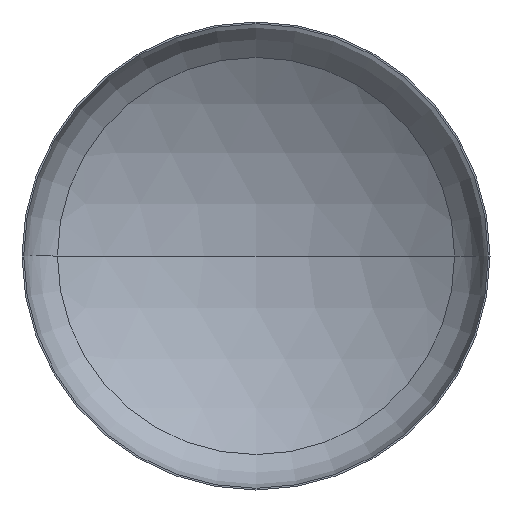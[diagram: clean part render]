
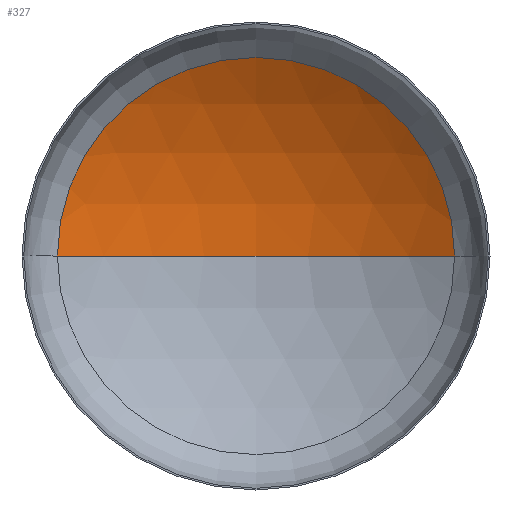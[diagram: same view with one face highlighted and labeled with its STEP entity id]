
A CAD part, front view. The second image highlights one B-rep face of the part: STEP entity #327.
In plain terms, the highlighted spherical face has radius 2400 mm.
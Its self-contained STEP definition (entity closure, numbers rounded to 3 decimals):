
#4 = ORIENTED_EDGE ( 'NONE', *, *, #21, .F. ) ;
#5 = VERTEX_POINT ( 'NONE', #278 ) ;
#12 = EDGE_CURVE ( 'NONE', #56, #5, #271, .T. ) ;
#14 = EDGE_LOOP ( 'NONE', ( #4, #106, #52 ) ) ;
#18 = EDGE_CURVE ( 'NONE', #216, #56, #155, .T. ) ;
#21 = EDGE_CURVE ( 'NONE', #216, #5, #326, .T. ) ;
#52 = ORIENTED_EDGE ( 'NONE', *, *, #12, .T. ) ;
#56 = VERTEX_POINT ( 'NONE', #285 ) ;
#81 = CARTESIAN_POINT ( 'NONE',  ( 0., 795.385, 0. ) ) ;
#106 = ORIENTED_EDGE ( 'NONE', *, *, #18, .T. ) ;
#147 = CARTESIAN_POINT ( 'NONE',  ( 0., -1604.615, 0. ) ) ;
#155 = CIRCLE ( 'NONE', #259, 2400. ) ;
#157 = DIRECTION ( 'NONE',  ( -1., 0., 0. ) ) ;
#213 = FACE_OUTER_BOUND ( 'NONE', #14, .T. ) ;
#216 = VERTEX_POINT ( 'NONE', #81 ) ;
#220 = SPHERICAL_SURFACE ( 'NONE', #268, 2400. ) ;
#221 = DIRECTION ( 'NONE',  ( 1., 0., 0. ) ) ;
#225 = DIRECTION ( 'NONE',  ( 0., 0., -1. ) ) ;
#227 = CARTESIAN_POINT ( 'NONE',  ( 0., -1604.615, 0. ) ) ;
#235 = DIRECTION ( 'NONE',  ( 0., -1., 0. ) ) ;
#236 = CARTESIAN_POINT ( 'NONE',  ( 0., 429.96, 0. ) ) ;
#245 = AXIS2_PLACEMENT_3D ( 'NONE', #236, #235, #221 ) ;
#259 = AXIS2_PLACEMENT_3D ( 'NONE', #227, #225, #328 ) ;
#268 = AXIS2_PLACEMENT_3D ( 'NONE', #147, #304, #157 ) ;
#271 = CIRCLE ( 'NONE', #245, 1272.99 ) ;
#272 = AXIS2_PLACEMENT_3D ( 'NONE', #321, #318, #317 ) ;
#278 = CARTESIAN_POINT ( 'NONE',  ( -1272.99, 429.96, 0. ) ) ;
#285 = CARTESIAN_POINT ( 'NONE',  ( 1272.99, 429.96, 0. ) ) ;
#304 = DIRECTION ( 'NONE',  ( 0., 0., -1. ) ) ;
#317 = DIRECTION ( 'NONE',  ( 1., 0., 0. ) ) ;
#318 = DIRECTION ( 'NONE',  ( 0., 0., 1. ) ) ;
#321 = CARTESIAN_POINT ( 'NONE',  ( 0., -1604.615, 0. ) ) ;
#326 = CIRCLE ( 'NONE', #272, 2400. ) ;
#327 = ADVANCED_FACE ( 'NONE', ( #213 ), #220, .F. ) ;
#328 = DIRECTION ( 'NONE',  ( -1., 0., 0. ) ) ;
